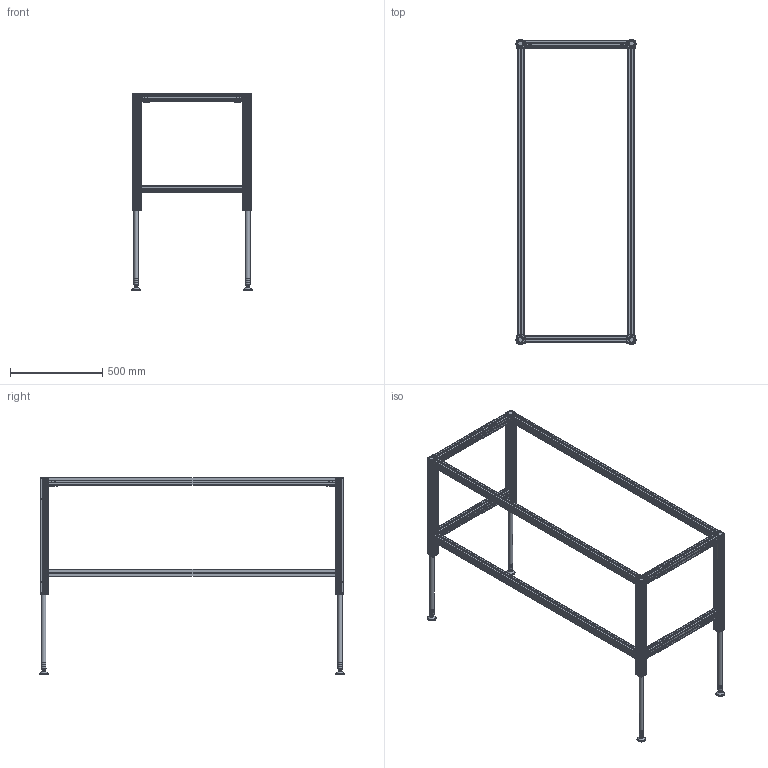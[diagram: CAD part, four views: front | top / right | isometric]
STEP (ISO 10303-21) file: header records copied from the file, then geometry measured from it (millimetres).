
FILE_DESCRIPTION(/* description */ ('Unknown'),/* implementation_level */ '2;1');
FILE_NAME(/* name */ '108.00403_ausgefahren',/* time_stamp */ '2019-08-07T13:53:34+02:00',/* author */ ('Unknown'),/* organization */ ('Unknown'),/* preprocessor_version */ 'ST-DEVELOPER v16.7',/* originating_system */ 'DEX',/* authorisation */ $);
FILE_SCHEMA (('AUTOMOTIVE_DESIGN {1 0 10303 214 3 1 1}'));
Length unit declared in the file: millimetre
Products named in the file (34): 108.00403; 115.00104; 119.00194; 142.00210; 115.00100; 119.00190; 306.00414_oa_0; 142.00014; 119.00224; 122.00005; 142.00020; 113.00002_70mm; 124.00125; 128.00040; 106.00404_oa_1; 107.00404_oa_2; 115.00007_oa_3; 123.00104; 125.00051; 306.00414_oa_4; 106.00404_oa_5; 107.00404_oa_6; 115.00007_oa_7; 306.00414_oa_8; 106.00404_oa_9; 107.00404_oa_10; 115.00007_oa_11; 306.00414_oa_12; 106.00404_oa_13; 107.00404_oa_14; 115.00007_oa_15; 113.00006; 113.00052_ohne Mutter; Mutter M10
Assembly tree (87 placements, depth 5):
  108.00403
    115.00104  x3
      119.00194
      142.00210
    115.00100  x4
      119.00190
      142.00210
    306.00414_oa_0
      142.00014  x2
      119.00224
      122.00005
      142.00020  x4
      113.00002_70mm
      124.00125
      128.00040
      106.00404_oa_1
        107.00404_oa_2
          115.00007_oa_3
        123.00104
        125.00051
    306.00414_oa_4
      142.00014  x2
      119.00224
      122.00005
      142.00020  x4
      113.00002_70mm
      124.00125
      128.00040
      106.00404_oa_5
        107.00404_oa_6
          115.00007_oa_7
        123.00104
        125.00051
    306.00414_oa_8
      142.00014  x2
      119.00224
      122.00005
      142.00020  x4
      113.00002_70mm
      124.00125
      128.00040
      106.00404_oa_9
        107.00404_oa_10
          115.00007_oa_11
        123.00104
        125.00051
    306.00414_oa_12
      142.00014  x2
      119.00224
      122.00005
      142.00020  x4
      113.00002_70mm
      124.00125
      128.00040
      106.00404_oa_13
        107.00404_oa_14
          115.00007_oa_15
        123.00104
        125.00051
    113.00006  x4
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Bounding box: 650.82 x 1650.82 x 1063 mm (x, y, z)
Volume: 7603007.1 mm3; surface area: 4887553.6 mm2
Topology: 95 solids, 95 shells, 5997 faces, 16818 edges, 10833 vertices
Faces by surface type: plane 2644, cylinder 2607, cone 254, torus 190, bspline 176, sphere 126
Full cylindrical faces by diameter (mm): 2.2 x4, 2.5 x48, 3 x16, 4 x40, 5 x28, 6.647 x4, 7.8 x14, 8 x4, 8.376 x12, 9.5 x4, 10 x8, 11.3 x14, 11.5 x18, 12 x14, 12.2 x14, 13.5 x14, 13.7 x21, 15 x4, 16 x4, 17.3 x4, 18 x28, 18.1 x14, 19 x8, 20.8 x12, 21 x4, 24 x4, 25 x20, 29 x4, 30 x8, 35 x4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
Entity records: 48695 total; most frequent: CARTESIAN_POINT 10438, ORIENTED_EDGE 7762, DIRECTION 7718, EDGE_CURVE 3881, AXIS2_PLACEMENT_3D 2771, VERTEX_POINT 2576, LINE 2176, VECTOR 2176
